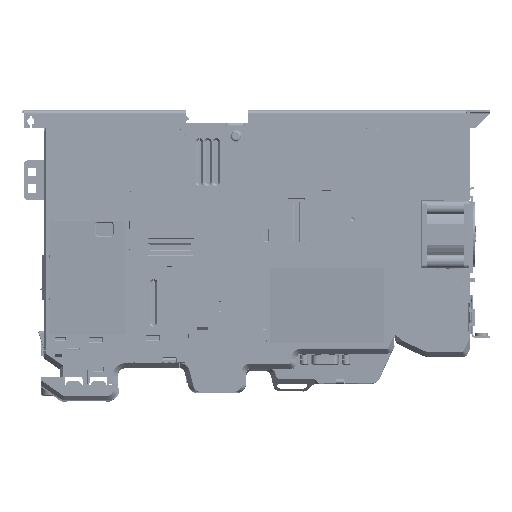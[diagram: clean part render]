
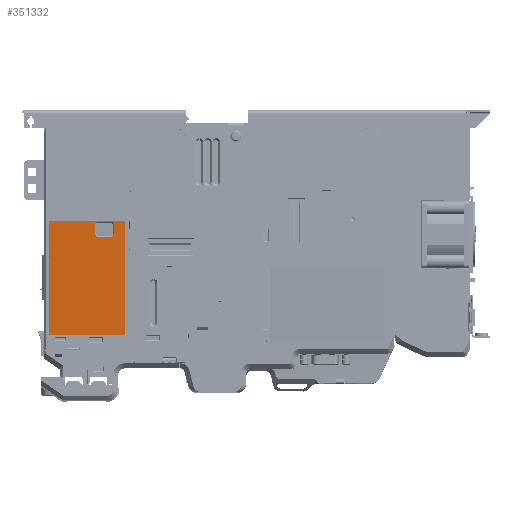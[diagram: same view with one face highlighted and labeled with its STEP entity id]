
A CAD part, left-side view. The second image highlights one B-rep face of the part: STEP entity #351332.
In plain terms, the highlighted planar face has unit normal (-0.997, 0.073, 0).
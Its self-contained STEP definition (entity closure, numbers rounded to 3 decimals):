
#341444=DIRECTION('',(0.,0.,-1.));
#341445=VECTOR('',#341444,67.78);
#341446=CARTESIAN_POINT('',(0.,122.617,-58.78));
#341447=LINE('',#341446,#341445);
#341864=DIRECTION('',(0.,0.,1.));
#341865=VECTOR('',#341864,23.631);
#341866=CARTESIAN_POINT('',(3.477,169.964,
-104.485));
#341867=LINE('',#341866,#341865);
#341868=DIRECTION('',(-0.073,-0.994,0.087));
#341869=VECTOR('',#341868,2.41);
#341870=CARTESIAN_POINT('',(3.477,169.964,
-80.855));
#341871=LINE('',#341870,#341869);
#341872=DIRECTION('',(0.,0.,1.));
#341873=VECTOR('',#341872,1.3);
#341874=CARTESIAN_POINT('',(3.301,167.57,-80.645));
#341875=LINE('',#341874,#341873);
#341876=DIRECTION('',(0.073,0.994,0.087));
#341877=VECTOR('',#341876,2.144);
#341878=CARTESIAN_POINT('',(3.301,167.57,-79.345));
#341879=LINE('',#341878,#341877);
#341880=DIRECTION('',(0.,0.,1.));
#341881=VECTOR('',#341880,20.185);
#341882=CARTESIAN_POINT('',(3.458,169.7,-79.158));
#341883=LINE('',#341882,#341881);
#341884=DIRECTION('',(0.073,0.993,-0.09));
#341885=VECTOR('',#341884,2.144);
#341886=CARTESIAN_POINT('',(3.301,167.57,-58.78));
#341887=LINE('',#341886,#341885);
#341888=DIRECTION('',(0.073,0.993,0.09));
#341889=VECTOR('',#341888,2.144);
#341890=CARTESIAN_POINT('',(3.301,167.57,-126.56));
#341891=LINE('',#341890,#341889);
#341892=DIRECTION('',(0.,0.,1.));
#341893=VECTOR('',#341892,20.185);
#341894=CARTESIAN_POINT('',(3.458,169.7,-126.367));
#341895=LINE('',#341894,#341893);
#341896=DIRECTION('',(0.073,0.994,-0.087));
#341897=VECTOR('',#341896,2.144);
#341898=CARTESIAN_POINT('',(3.301,167.57,-105.995));
#341899=LINE('',#341898,#341897);
#341900=DIRECTION('',(0.,0.,1.));
#341901=VECTOR('',#341900,1.3);
#341902=CARTESIAN_POINT('',(3.301,167.57,-105.995));
#341903=LINE('',#341902,#341901);
#341904=DIRECTION('',(-0.073,-0.994,
-0.087));
#341905=VECTOR('',#341904,2.41);
#341906=CARTESIAN_POINT('',(3.477,169.964,
-104.485));
#341907=LINE('',#341906,#341905);
#341908=CARTESIAN_POINT('',(0.627,131.153,-61.03));
#341909=DIRECTION('',(0.997,-0.073,0.));
#341910=DIRECTION('',(0.,0.,1.));
#341911=AXIS2_PLACEMENT_3D('',#341908,#341909,#341910);
#341913=DIRECTION('',(-0.073,-0.997,
0.));
#341914=VECTOR('',#341913,7.5);
#341915=CARTESIAN_POINT('',(1.176,138.633,
-59.28));
#341916=LINE('',#341915,#341914);
#341917=CARTESIAN_POINT('',(1.176,138.633,-61.03));
#341918=DIRECTION('',(0.997,-0.073,0.));
#341919=DIRECTION('',(0.073,0.997,0.));
#341920=AXIS2_PLACEMENT_3D('',#341917,#341918,#341919);
#341922=DIRECTION('',(0.,0.,1.));
#341923=VECTOR('',#341922,5.5);
#341924=CARTESIAN_POINT('',(1.304,140.379,
-66.53));
#341925=LINE('',#341924,#341923);
#341926=CARTESIAN_POINT('',(1.176,138.633,-66.53));
#341927=DIRECTION('',(0.997,-0.073,0.));
#341928=DIRECTION('',(0.,0.,-1.));
#341929=AXIS2_PLACEMENT_3D('',#341926,#341927,#341928);
#341931=DIRECTION('',(0.073,0.997,0.));
#341932=VECTOR('',#341931,7.5);
#341933=CARTESIAN_POINT('',(0.627,131.153,
-68.28));
#341934=LINE('',#341933,#341932);
#341935=CARTESIAN_POINT('',(0.627,131.153,-66.53));
#341936=DIRECTION('',(0.997,-0.073,0.));
#341937=DIRECTION('',(-0.073,-0.997,
0.));
#341938=AXIS2_PLACEMENT_3D('',#341935,#341936,#341937);
#341940=DIRECTION('',(0.,0.,-1.));
#341941=VECTOR('',#341940,5.5);
#341942=CARTESIAN_POINT('',(0.499,129.408,
-61.03));
#341943=LINE('',#341942,#341941);
#341952=DIRECTION('',(0.073,0.997,0.));
#341953=VECTOR('',#341952,45.074);
#341954=CARTESIAN_POINT('',(0.,122.617,-58.78));
#341955=LINE('',#341954,#341953);
#341964=DIRECTION('',(-0.073,-0.997,0.));
#341965=VECTOR('',#341964,45.074);
#341966=CARTESIAN_POINT('',(3.301,167.57,-126.56));
#341967=LINE('',#341966,#341965);
#344790=CARTESIAN_POINT('',(3.477,169.964,
-80.855));
#348895=CARTESIAN_POINT('',(0.,122.617,-58.78));
#348896=CARTESIAN_POINT('',(0.,122.617,-126.56));
#348897=VERTEX_POINT('',#348895);
#348898=VERTEX_POINT('',#348896);
#349786=VERTEX_POINT('',#344790);
#349787=CARTESIAN_POINT('',(3.477,169.964,
-104.485));
#349788=VERTEX_POINT('',#349787);
#350638=CARTESIAN_POINT('',(3.301,167.57,-126.56));
#350639=VERTEX_POINT('',#350638);
#350640=CARTESIAN_POINT('',(3.458,169.7,-126.367));
#350641=VERTEX_POINT('',#350640);
#350642=CARTESIAN_POINT('',(3.301,167.57,-58.78));
#350644=VERTEX_POINT('',#350642);
#350646=CARTESIAN_POINT('',(3.458,169.7,-58.973));
#350647=VERTEX_POINT('',#350646);
#350650=CARTESIAN_POINT('',(3.458,169.7,-106.182));
#350651=VERTEX_POINT('',#350650);
#350652=CARTESIAN_POINT('',(3.458,169.7,-79.158));
#350653=VERTEX_POINT('',#350652);
#350660=CARTESIAN_POINT('',(3.301,167.57,-105.995));
#350661=CARTESIAN_POINT('',(3.301,167.57,-104.695));
#350662=VERTEX_POINT('',#350660);
#350663=VERTEX_POINT('',#350661);
#350664=CARTESIAN_POINT('',(3.301,167.57,-80.645));
#350665=CARTESIAN_POINT('',(3.301,167.57,-79.345));
#350666=VERTEX_POINT('',#350664);
#350667=VERTEX_POINT('',#350665);
#350802=CARTESIAN_POINT('',(0.627,131.153,-59.28));
#350803=CARTESIAN_POINT('',(0.499,129.408,-61.03));
#350804=VERTEX_POINT('',#350802);
#350805=VERTEX_POINT('',#350803);
#350810=CARTESIAN_POINT('',(0.499,129.408,
-66.53));
#350811=VERTEX_POINT('',#350810);
#350814=CARTESIAN_POINT('',(0.627,131.153,-68.28));
#350815=VERTEX_POINT('',#350814);
#350818=CARTESIAN_POINT('',(1.176,138.633,
-68.28));
#350819=VERTEX_POINT('',#350818);
#350822=CARTESIAN_POINT('',(1.304,140.379,-66.53));
#350823=VERTEX_POINT('',#350822);
#350826=CARTESIAN_POINT('',(1.304,140.379,
-61.03));
#350827=VERTEX_POINT('',#350826);
#350830=CARTESIAN_POINT('',(1.176,138.633,-59.28));
#350831=VERTEX_POINT('',#350830);
#351280=CARTESIAN_POINT('',(3.301,167.57,-126.56));
#351281=DIRECTION('',(0.997,-0.073,0.));
#351282=DIRECTION('',(-0.073,-0.997,0.));
#351283=AXIS2_PLACEMENT_3D('',#351280,#351281,#351282);
#351284=PLANE('',#351283);
#351286=ORIENTED_EDGE('',*,*,#351285,.T.);
#351288=ORIENTED_EDGE('',*,*,#351287,.T.);
#351290=ORIENTED_EDGE('',*,*,#351289,.T.);
#351292=ORIENTED_EDGE('',*,*,#351291,.T.);
#351294=ORIENTED_EDGE('',*,*,#351293,.T.);
#351296=ORIENTED_EDGE('',*,*,#351295,.F.);
#351298=ORIENTED_EDGE('',*,*,#351297,.F.);
#351299=ORIENTED_EDGE('',*,*,#351086,.T.);
#351301=ORIENTED_EDGE('',*,*,#351300,.F.);
#351303=ORIENTED_EDGE('',*,*,#351302,.T.);
#351305=ORIENTED_EDGE('',*,*,#351304,.T.);
#351307=ORIENTED_EDGE('',*,*,#351306,.F.);
#351309=ORIENTED_EDGE('',*,*,#351308,.T.);
#351311=ORIENTED_EDGE('',*,*,#351310,.F.);
#351312=EDGE_LOOP('',(#351286,#351288,#351290,#351292,#351294,#351296,#351298,
#351299,#351301,#351303,#351305,#351307,#351309,#351311));
#351313=FACE_OUTER_BOUND('',#351312,.F.);
#351315=ORIENTED_EDGE('',*,*,#351314,.F.);
#351317=ORIENTED_EDGE('',*,*,#351316,.F.);
#351319=ORIENTED_EDGE('',*,*,#351318,.F.);
#351321=ORIENTED_EDGE('',*,*,#351320,.F.);
#351323=ORIENTED_EDGE('',*,*,#351322,.F.);
#351325=ORIENTED_EDGE('',*,*,#351324,.F.);
#351327=ORIENTED_EDGE('',*,*,#351326,.F.);
#351329=ORIENTED_EDGE('',*,*,#351328,.F.);
#351330=EDGE_LOOP('',(#351315,#351317,#351319,#351321,#351323,#351325,#351327,
#351329));
#351331=FACE_BOUND('',#351330,.F.);
#351332=ADVANCED_FACE('',(#351313,#351331),#351284,.F.);
#341912=CIRCLE('',#341911,1.75);
#341921=CIRCLE('',#341920,1.75);
#341930=CIRCLE('',#341929,1.75);
#341939=CIRCLE('',#341938,1.75);
#351086=EDGE_CURVE('',#348897,#348898,#341447,.T.);
#351285=EDGE_CURVE('',#349788,#349786,#341867,.T.);
#351287=EDGE_CURVE('',#349786,#350666,#341871,.T.);
#351289=EDGE_CURVE('',#350666,#350667,#341875,.T.);
#351291=EDGE_CURVE('',#350667,#350653,#341879,.T.);
#351293=EDGE_CURVE('',#350653,#350647,#341883,.T.);
#351295=EDGE_CURVE('',#350644,#350647,#341887,.T.);
#351297=EDGE_CURVE('',#348897,#350644,#341955,.T.);
#351300=EDGE_CURVE('',#350639,#348898,#341967,.T.);
#351302=EDGE_CURVE('',#350639,#350641,#341891,.T.);
#351304=EDGE_CURVE('',#350641,#350651,#341895,.T.);
#351306=EDGE_CURVE('',#350662,#350651,#341899,.T.);
#351308=EDGE_CURVE('',#350662,#350663,#341903,.T.);
#351310=EDGE_CURVE('',#349788,#350663,#341907,.T.);
#351314=EDGE_CURVE('',#350804,#350805,#341912,.T.);
#351316=EDGE_CURVE('',#350831,#350804,#341916,.T.);
#351318=EDGE_CURVE('',#350827,#350831,#341921,.T.);
#351320=EDGE_CURVE('',#350823,#350827,#341925,.T.);
#351322=EDGE_CURVE('',#350819,#350823,#341930,.T.);
#351324=EDGE_CURVE('',#350815,#350819,#341934,.T.);
#351326=EDGE_CURVE('',#350811,#350815,#341939,.T.);
#351328=EDGE_CURVE('',#350805,#350811,#341943,.T.);
